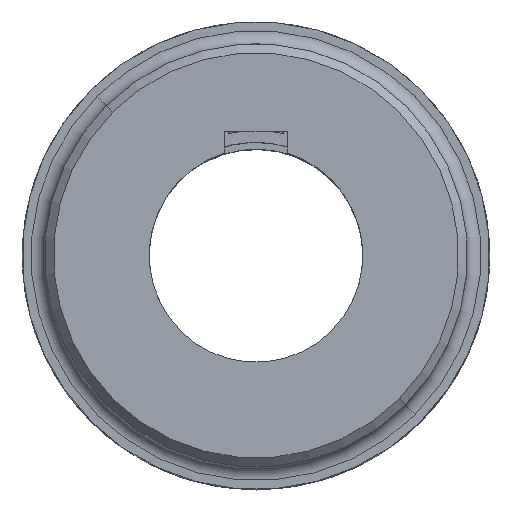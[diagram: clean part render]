
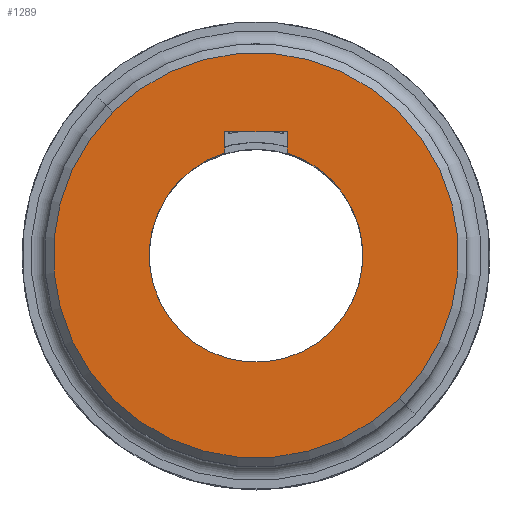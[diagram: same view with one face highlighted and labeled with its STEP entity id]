
A CAD part, top view. The second image highlights one B-rep face of the part: STEP entity #1289.
In plain terms, the highlighted planar face has unit normal (0, 0, 1) as drawn and (0, 0, -1) by its records, which use the part's own axes.
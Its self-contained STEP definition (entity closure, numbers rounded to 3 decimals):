
#29 = ORIENTED_EDGE ( 'NONE', *, *, #1147, .T. ) ;
#90 = CIRCLE ( 'NONE', #4187, 24. ) ;
#139 = VERTEX_POINT ( 'NONE', #6373 ) ;
#210 = CARTESIAN_POINT ( 'NONE',  ( -24.607, 14.708, -56. ) ) ;
#270 = VECTOR ( 'NONE', #4683, 1000. ) ;
#308 = CIRCLE ( 'NONE', #6268, 45.5 ) ;
#318 = VECTOR ( 'NONE', #3269, 1000. ) ;
#352 = ORIENTED_EDGE ( 'NONE', *, *, #7167, .F. ) ;
#498 = CIRCLE ( 'NONE', #5179, 24. ) ;
#774 = DIRECTION ( 'NONE',  ( -0.883, 0.47, 0. ) ) ;
#927 = EDGE_CURVE ( 'NONE', #6799, #6225, #5024, .T. ) ;
#1014 = EDGE_CURVE ( 'NONE', #2454, #3943, #90, .T. ) ;
#1020 = AXIS2_PLACEMENT_3D ( 'NONE', #6262, #1263, #774 ) ;
#1147 = EDGE_CURVE ( 'NONE', #6799, #5568, #2078, .T. ) ;
#1153 = DIRECTION ( 'NONE',  ( -0.883, 0.47, 0. ) ) ;
#1155 = EDGE_CURVE ( 'NONE', #4581, #1735, #308, .T. ) ;
#1263 = DIRECTION ( 'NONE',  ( 0., 0., 1. ) ) ;
#1289 = ADVANCED_FACE ( 'NONE', ( #3551, #5793 ), #6302, .T. ) ;
#1304 = DIRECTION ( 'NONE',  ( 0., -1., 0. ) ) ;
#1517 = CIRCLE ( 'NONE', #3944, 45.5 ) ;
#1615 = CARTESIAN_POINT ( 'NONE',  ( -24., 0., -56. ) ) ;
#1635 = DIRECTION ( 'NONE',  ( 0., 0., 1. ) ) ;
#1735 = VERTEX_POINT ( 'NONE', #4396 ) ;
#1779 = EDGE_LOOP ( 'NONE', ( #29, #3844, #4606, #352, #3159, #4096 ) ) ;
#2078 = CIRCLE ( 'NONE', #1020, 24. ) ;
#2166 = CARTESIAN_POINT ( 'NONE',  ( 24., 0., -56. ) ) ;
#2322 = DIRECTION ( 'NONE',  ( 0., 1., 0. ) ) ;
#2429 = DIRECTION ( 'NONE',  ( 0., 0., -1. ) ) ;
#2454 = VERTEX_POINT ( 'NONE', #2166 ) ;
#2455 = CARTESIAN_POINT ( 'NONE',  ( -14.708, 24.607, -56. ) ) ;
#2475 = CARTESIAN_POINT ( 'NONE',  ( 0., 0., -56. ) ) ;
#3102 = LINE ( 'NONE', #2455, #270 ) ;
#3159 = ORIENTED_EDGE ( 'NONE', *, *, #5309, .F. ) ;
#3269 = DIRECTION ( 'NONE',  ( -0.707, 0.707, 0. ) ) ;
#3436 = CARTESIAN_POINT ( 'NONE',  ( -21.182, 11.283, -56. ) ) ;
#3440 = DIRECTION ( 'NONE',  ( 0., 0., -1. ) ) ;
#3480 = CARTESIAN_POINT ( 'NONE',  ( 0., 0., -56. ) ) ;
#3551 = FACE_BOUND ( 'NONE', #1779, .T. ) ;
#3844 = ORIENTED_EDGE ( 'NONE', *, *, #6625, .T. ) ;
#3868 = VECTOR ( 'NONE', #5932, 1000. ) ;
#3909 = ORIENTED_EDGE ( 'NONE', *, *, #1155, .T. ) ;
#3943 = VERTEX_POINT ( 'NONE', #5906 ) ;
#3944 = AXIS2_PLACEMENT_3D ( 'NONE', #4879, #1635, #7093 ) ;
#3961 = EDGE_CURVE ( 'NONE', #4581, #1735, #1517, .T. ) ;
#4096 = ORIENTED_EDGE ( 'NONE', *, *, #927, .F. ) ;
#4187 = AXIS2_PLACEMENT_3D ( 'NONE', #6695, #6149, #1153 ) ;
#4396 = CARTESIAN_POINT ( 'NONE',  ( 0., -45.5, -56. ) ) ;
#4581 = VERTEX_POINT ( 'NONE', #5551 ) ;
#4606 = ORIENTED_EDGE ( 'NONE', *, *, #1014, .T. ) ;
#4674 = DIRECTION ( 'NONE',  ( 0., 0., 1. ) ) ;
#4683 = DIRECTION ( 'NONE',  ( 0.707, -0.707, 0. ) ) ;
#4697 = CARTESIAN_POINT ( 'NONE',  ( 0., 0., -56. ) ) ;
#4878 = EDGE_LOOP ( 'NONE', ( #3909, #5012 ) ) ;
#4879 = CARTESIAN_POINT ( 'NONE',  ( 0., 0., -56. ) ) ;
#5012 = ORIENTED_EDGE ( 'NONE', *, *, #3961, .F. ) ;
#5024 = LINE ( 'NONE', #6658, #318 ) ;
#5179 = AXIS2_PLACEMENT_3D ( 'NONE', #2475, #4674, #5731 ) ;
#5309 = EDGE_CURVE ( 'NONE', #6225, #139, #5350, .T. ) ;
#5350 = LINE ( 'NONE', #7012, #3868 ) ;
#5551 = CARTESIAN_POINT ( 'NONE',  ( 0., 45.5, -56. ) ) ;
#5568 = VERTEX_POINT ( 'NONE', #1615 ) ;
#5731 = DIRECTION ( 'NONE',  ( -0.883, 0.47, 0. ) ) ;
#5793 = FACE_OUTER_BOUND ( 'NONE', #4878, .T. ) ;
#5906 = CARTESIAN_POINT ( 'NONE',  ( -11.283, 21.182, -56. ) ) ;
#5932 = DIRECTION ( 'NONE',  ( 0.707, 0.707, 0. ) ) ;
#6149 = DIRECTION ( 'NONE',  ( 0., 0., 1. ) ) ;
#6151 = AXIS2_PLACEMENT_3D ( 'NONE', #4697, #3440, #1304 ) ;
#6225 = VERTEX_POINT ( 'NONE', #210 ) ;
#6262 = CARTESIAN_POINT ( 'NONE',  ( 0., 0., -56. ) ) ;
#6268 = AXIS2_PLACEMENT_3D ( 'NONE', #3480, #2429, #2322 ) ;
#6302 = PLANE ( 'NONE',  #6151 ) ;
#6373 = CARTESIAN_POINT ( 'NONE',  ( -14.708, 24.607, -56. ) ) ;
#6625 = EDGE_CURVE ( 'NONE', #5568, #2454, #498, .T. ) ;
#6658 = CARTESIAN_POINT ( 'NONE',  ( -21.182, 11.283, -56. ) ) ;
#6695 = CARTESIAN_POINT ( 'NONE',  ( 0., 0., -56. ) ) ;
#6799 = VERTEX_POINT ( 'NONE', #3436 ) ;
#7012 = CARTESIAN_POINT ( 'NONE',  ( -24.607, 14.708, -56. ) ) ;
#7093 = DIRECTION ( 'NONE',  ( 0., 1., 0. ) ) ;
#7167 = EDGE_CURVE ( 'NONE', #139, #3943, #3102, .T. ) ;
